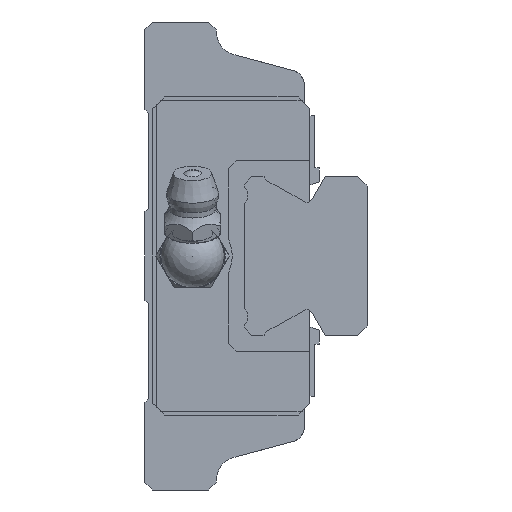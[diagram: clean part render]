
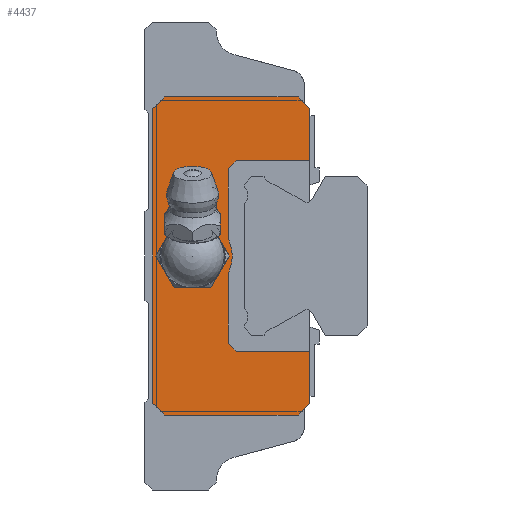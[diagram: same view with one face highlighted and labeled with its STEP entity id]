
A CAD part, left-side view. The second image highlights one B-rep face of the part: STEP entity #4437.
In plain terms, the highlighted planar face has unit normal (-1, 0, 0).
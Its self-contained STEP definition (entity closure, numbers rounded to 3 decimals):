
#72=LINE('',#6531,#498);
#128=LINE('',#6646,#554);
#143=LINE('',#6677,#569);
#150=LINE('',#6691,#576);
#154=LINE('',#6698,#580);
#164=LINE('',#6719,#590);
#167=LINE('',#6724,#593);
#175=LINE('',#6736,#601);
#202=LINE('',#6794,#628);
#349=LINE('',#7162,#775);
#354=LINE('',#7178,#780);
#355=LINE('',#7180,#781);
#356=LINE('',#7182,#782);
#357=LINE('',#7183,#783);
#358=LINE('',#7185,#784);
#498=VECTOR('',#5168,1000.);
#554=VECTOR('',#5246,1000.);
#569=VECTOR('',#5263,1000.);
#576=VECTOR('',#5274,1000.);
#580=VECTOR('',#5280,1000.);
#590=VECTOR('',#5292,1000.);
#593=VECTOR('',#5297,1000.);
#601=VECTOR('',#5313,1000.);
#628=VECTOR('',#5356,1000.);
#775=VECTOR('',#5679,1000.);
#780=VECTOR('',#5698,1000.);
#781=VECTOR('',#5699,1000.);
#782=VECTOR('',#5700,1000.);
#783=VECTOR('',#5701,1000.);
#784=VECTOR('',#5702,1000.);
#995=PLANE('',#4782);
#1184=CIRCLE('',#4783,5.);
#1185=CIRCLE('',#4784,3.);
#1997=ORIENTED_EDGE('',*,*,#2580,.T.);
#1998=ORIENTED_EDGE('',*,*,#2896,.F.);
#1999=ORIENTED_EDGE('',*,*,#2897,.T.);
#2000=ORIENTED_EDGE('',*,*,#2898,.T.);
#2001=ORIENTED_EDGE('',*,*,#2899,.T.);
#2002=ORIENTED_EDGE('',*,*,#2712,.F.);
#2003=ORIENTED_EDGE('',*,*,#2662,.F.);
#2004=ORIENTED_EDGE('',*,*,#2658,.F.);
#2005=ORIENTED_EDGE('',*,*,#2651,.F.);
#2006=ORIENTED_EDGE('',*,*,#2683,.F.);
#2007=ORIENTED_EDGE('',*,*,#2636,.F.);
#2008=ORIENTED_EDGE('',*,*,#2675,.F.);
#2009=ORIENTED_EDGE('',*,*,#2672,.F.);
#2010=ORIENTED_EDGE('',*,*,#2889,.F.);
#2011=ORIENTED_EDGE('',*,*,#2900,.T.);
#2012=ORIENTED_EDGE('',*,*,#2901,.T.);
#2013=ORIENTED_EDGE('',*,*,#2902,.T.);
#2580=EDGE_CURVE('',#3164,#3163,#72,.T.);
#2636=EDGE_CURVE('',#3211,#3212,#128,.T.);
#2651=EDGE_CURVE('',#3226,#3227,#143,.T.);
#2658=EDGE_CURVE('',#3227,#3232,#150,.T.);
#2662=EDGE_CURVE('',#3232,#3234,#154,.T.);
#2672=EDGE_CURVE('',#3243,#3244,#164,.T.);
#2675=EDGE_CURVE('',#3244,#3211,#167,.T.);
#2683=EDGE_CURVE('',#3212,#3226,#175,.T.);
#2712=EDGE_CURVE('',#3234,#3268,#202,.T.);
#2889=EDGE_CURVE('',#3380,#3243,#349,.T.);
#2896=EDGE_CURVE('',#3384,#3163,#1184,.T.);
#2897=EDGE_CURVE('',#3384,#3385,#354,.T.);
#2898=EDGE_CURVE('',#3385,#3386,#355,.T.);
#2899=EDGE_CURVE('',#3386,#3268,#356,.T.);
#2900=EDGE_CURVE('',#3380,#3387,#357,.T.);
#2901=EDGE_CURVE('',#3387,#3164,#358,.T.);
#2902=EDGE_CURVE('',#3388,#3388,#1185,.T.);
#3163=VERTEX_POINT('',#6530);
#3164=VERTEX_POINT('',#6532);
#3211=VERTEX_POINT('',#6645);
#3212=VERTEX_POINT('',#6647);
#3226=VERTEX_POINT('',#6676);
#3227=VERTEX_POINT('',#6678);
#3232=VERTEX_POINT('',#6692);
#3234=VERTEX_POINT('',#6699);
#3243=VERTEX_POINT('',#6718);
#3244=VERTEX_POINT('',#6720);
#3268=VERTEX_POINT('',#6795);
#3380=VERTEX_POINT('',#7161);
#3384=VERTEX_POINT('',#7177);
#3385=VERTEX_POINT('',#7179);
#3386=VERTEX_POINT('',#7181);
#3387=VERTEX_POINT('',#7184);
#3388=VERTEX_POINT('',#7187);
#3718=EDGE_LOOP('',(#1997,#1998,#1999,#2000,#2001,#2002,#2003,#2004,#2005,
#2006,#2007,#2008,#2009,#2010,#2011,#2012));
#3719=EDGE_LOOP('',(#2013));
#4079=FACE_BOUND('',#3718,.T.);
#4080=FACE_BOUND('',#3719,.T.);
#4437=ADVANCED_FACE('',(#4079,#4080),#995,.F.);
#4782=AXIS2_PLACEMENT_3D('',#7175,#5694,#5695);
#4783=AXIS2_PLACEMENT_3D('',#7176,#5696,#5697);
#4784=AXIS2_PLACEMENT_3D('',#7186,#5703,#5704);
#5168=DIRECTION('',(0.,0.,1.));
#5246=DIRECTION('',(0.,0.707,0.707));
#5263=DIRECTION('',(0.,-0.707,0.707));
#5274=DIRECTION('',(0.,-1.,0.));
#5280=DIRECTION('',(0.,-0.707,-0.707));
#5292=DIRECTION('',(0.,0.707,-0.707));
#5297=DIRECTION('',(0.,1.,0.));
#5313=DIRECTION('',(0.,0.,1.));
#5356=DIRECTION('',(0.,0.,-1.));
#5679=DIRECTION('',(0.,0.,-1.));
#5694=DIRECTION('',(1.,0.,0.));
#5695=DIRECTION('',(0.,0.,-1.));
#5696=DIRECTION('',(1.,0.,0.));
#5697=DIRECTION('',(0.,0.,-1.));
#5698=DIRECTION('',(0.,0.,1.));
#5699=DIRECTION('',(0.,-0.707,0.707));
#5700=DIRECTION('',(0.,-1.,0.));
#5701=DIRECTION('',(0.,1.,0.));
#5702=DIRECTION('',(0.,0.707,0.707));
#5703=DIRECTION('',(1.,0.,0.));
#5704=DIRECTION('',(0.,0.,-1.));
#6530=CARTESIAN_POINT('',(-21.65,11.5,-2.179));
#6531=CARTESIAN_POINT('',(-21.65,11.5,-11.));
#6532=CARTESIAN_POINT('',(-21.65,11.5,-11.));
#6645=CARTESIAN_POINT('',(-21.65,19.5,-20.05));
#6646=CARTESIAN_POINT('',(-21.65,19.5,-20.05));
#6647=CARTESIAN_POINT('',(-21.65,21.,-18.55));
#6676=CARTESIAN_POINT('',(-21.65,21.,18.55));
#6677=CARTESIAN_POINT('',(-21.65,21.,18.55));
#6678=CARTESIAN_POINT('',(-21.65,19.5,20.05));
#6691=CARTESIAN_POINT('',(-21.65,19.5,20.05));
#6692=CARTESIAN_POINT('',(-21.65,2.7,20.05));
#6698=CARTESIAN_POINT('',(-21.65,2.7,20.05));
#6699=CARTESIAN_POINT('',(-21.65,1.2,18.55));
#6718=CARTESIAN_POINT('',(-21.65,1.2,-18.55));
#6719=CARTESIAN_POINT('',(-21.65,1.2,-18.55));
#6720=CARTESIAN_POINT('',(-21.65,2.7,-20.05));
#6724=CARTESIAN_POINT('',(-21.65,2.7,-20.05));
#6736=CARTESIAN_POINT('',(-21.65,21.,-18.55));
#6794=CARTESIAN_POINT('',(-21.65,1.2,18.55));
#6795=CARTESIAN_POINT('',(-21.65,1.2,12.));
#7161=CARTESIAN_POINT('',(-21.65,1.2,-12.));
#7162=CARTESIAN_POINT('',(-21.65,1.2,18.55));
#7175=CARTESIAN_POINT('',(-21.65,0.,0.));
#7176=CARTESIAN_POINT('',(-21.65,16.,0.));
#7177=CARTESIAN_POINT('',(-21.65,11.5,2.179));
#7178=CARTESIAN_POINT('',(-21.65,11.5,-11.));
#7179=CARTESIAN_POINT('',(-21.65,11.5,11.));
#7180=CARTESIAN_POINT('',(-21.65,11.5,11.));
#7181=CARTESIAN_POINT('',(-21.65,10.5,12.));
#7182=CARTESIAN_POINT('',(-21.65,10.5,12.));
#7183=CARTESIAN_POINT('',(-21.65,1.2,-12.));
#7184=CARTESIAN_POINT('',(-21.65,10.5,-12.));
#7185=CARTESIAN_POINT('',(-21.65,10.5,-12.));
#7186=CARTESIAN_POINT('',(-21.65,16.,0.));
#7187=CARTESIAN_POINT('',(-21.65,16.,-3.));
